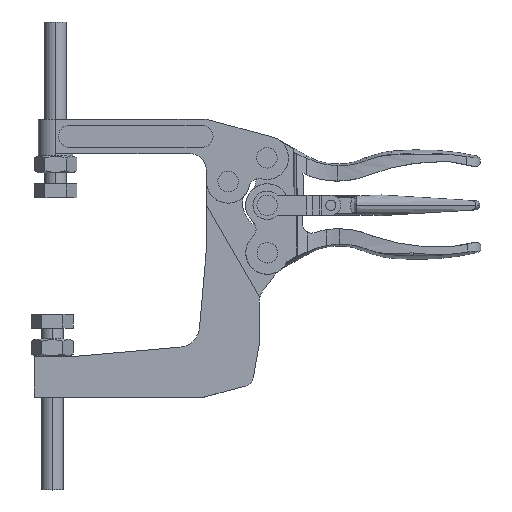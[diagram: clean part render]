
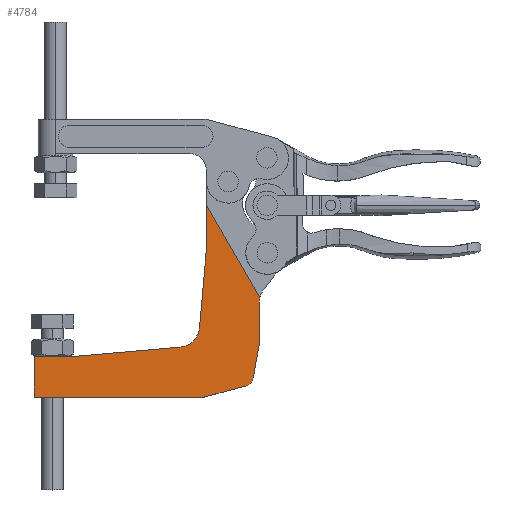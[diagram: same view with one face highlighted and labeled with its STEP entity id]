
A CAD part, top view. The second image highlights one B-rep face of the part: STEP entity #4784.
In plain terms, the highlighted planar face has unit normal (0, 0, 1).
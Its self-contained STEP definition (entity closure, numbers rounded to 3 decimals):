
#69 = ORIENTED_EDGE ( 'NONE', *, *, #2282, .T. ) ;
#152 = DIRECTION ( 'NONE',  ( 0.5, -0.866, 0. ) ) ;
#467 = DIRECTION ( 'NONE',  ( 1., 0., 0. ) ) ;
#497 = EDGE_CURVE ( 'NONE', #10672, #712, #8376, .T. ) ;
#516 = VECTOR ( 'NONE', #9555, 1000. ) ;
#581 = CARTESIAN_POINT ( 'NONE',  ( -40.173, -44.457, 0. ) ) ;
#665 = CARTESIAN_POINT ( 'NONE',  ( -107.848, -67.651, 0. ) ) ;
#702 = VERTEX_POINT ( 'NONE', #7460 ) ;
#712 = VERTEX_POINT ( 'NONE', #11239 ) ;
#771 = CARTESIAN_POINT ( 'NONE',  ( -9.771, -62.455, 0. ) ) ;
#847 = VERTEX_POINT ( 'NONE', #7063 ) ;
#1009 = VERTEX_POINT ( 'NONE', #1770 ) ;
#1131 = AXIS2_PLACEMENT_3D ( 'NONE', #12023, #10937, #12084 ) ;
#1409 = VERTEX_POINT ( 'NONE', #4187 ) ;
#1525 = ORIENTED_EDGE ( 'NONE', *, *, #9564, .T. ) ;
#1533 = DIRECTION ( 'NONE',  ( 1., 0., 0. ) ) ;
#1603 = AXIS2_PLACEMENT_3D ( 'NONE', #13221, #6814, #467 ) ;
#1698 = CARTESIAN_POINT ( 'NONE',  ( -11.065, -57.625, 0. ) ) ;
#1770 = CARTESIAN_POINT ( 'NONE',  ( -107.848, -48.651, 0. ) ) ;
#1803 = VERTEX_POINT ( 'NONE', #581 ) ;
#2141 = CARTESIAN_POINT ( 'NONE',  ( -3.348, -42.651, 0. ) ) ;
#2245 = EDGE_CURVE ( 'NONE', #3958, #1803, #4711, .T. ) ;
#2282 = EDGE_CURVE ( 'NONE', #13618, #4879, #5055, .T. ) ;
#2354 = CARTESIAN_POINT ( 'NONE',  ( -27.848, 1.609, 0. ) ) ;
#2370 = VECTOR ( 'NONE', #1533, 1000. ) ;
#2383 = ORIENTED_EDGE ( 'NONE', *, *, #13534, .T. ) ;
#2491 = CARTESIAN_POINT ( 'NONE',  ( -107.848, -48.651, 0. ) ) ;
#3083 = CARTESIAN_POINT ( 'NONE',  ( -3.348, -42.651, 0. ) ) ;
#3273 = ORIENTED_EDGE ( 'NONE', *, *, #3891, .T. ) ;
#3441 = CARTESIAN_POINT ( 'NONE',  ( -27.848, 1.609, 0. ) ) ;
#3634 = CARTESIAN_POINT ( 'NONE',  ( -88.108, -48.651, 0. ) ) ;
#3662 = CARTESIAN_POINT ( 'NONE',  ( -3.348, -42.651, 0. ) ) ;
#3693 = LINE ( 'NONE', #2141, #516 ) ;
#3806 = EDGE_LOOP ( 'NONE', ( #12873, #8698, #2383, #1525, #9063, #8441, #4392, #8582, #7151, #13535, #69, #6688, #3273 ) ) ;
#3891 = EDGE_CURVE ( 'NONE', #9716, #10672, #3693, .T. ) ;
#3958 = VERTEX_POINT ( 'NONE', #10651 ) ;
#4187 = CARTESIAN_POINT ( 'NONE',  ( -88.108, -48.651, 0. ) ) ;
#4238 = LINE ( 'NONE', #3634, #12052 ) ;
#4392 = ORIENTED_EDGE ( 'NONE', *, *, #6356, .T. ) ;
#4505 = LINE ( 'NONE', #2354, #9814 ) ;
#4592 = VECTOR ( 'NONE', #11396, 1000. ) ;
#4711 = CIRCLE ( 'NONE', #1603, 10. ) ;
#4784 = ADVANCED_FACE ( 'NONE', ( #5272 ), #4902, .T. ) ;
#4879 = VERTEX_POINT ( 'NONE', #8745 ) ;
#4902 = PLANE ( 'NONE',  #9432 ) ;
#5055 = CIRCLE ( 'NONE', #6566, 5. ) ;
#5259 = LINE ( 'NONE', #6522, #10550 ) ;
#5272 = FACE_OUTER_BOUND ( 'NONE', #3806, .T. ) ;
#5453 = CARTESIAN_POINT ( 'NONE',  ( -27.848, 1.609, 0. ) ) ;
#5554 = EDGE_CURVE ( 'NONE', #847, #712, #5259, .T. ) ;
#5816 = DIRECTION ( 'NONE',  ( 0., 0., 1. ) ) ;
#5969 = DIRECTION ( 'NONE',  ( 1., 0., 0. ) ) ;
#6221 = VERTEX_POINT ( 'NONE', #3441 ) ;
#6271 = DIRECTION ( 'NONE',  ( -0.996, -0.087, 0. ) ) ;
#6356 = EDGE_CURVE ( 'NONE', #1409, #1009, #4238, .T. ) ;
#6522 = CARTESIAN_POINT ( 'NONE',  ( -27.848, 21.349, 0. ) ) ;
#6566 = AXIS2_PLACEMENT_3D ( 'NONE', #12182, #5816, #13272 ) ;
#6688 = ORIENTED_EDGE ( 'NONE', *, *, #8184, .T. ) ;
#6748 = VECTOR ( 'NONE', #6271, 1000. ) ;
#6814 = DIRECTION ( 'NONE',  ( 0., 0., -1. ) ) ;
#7063 = CARTESIAN_POINT ( 'NONE',  ( -27.848, 21.349, 0. ) ) ;
#7087 = LINE ( 'NONE', #11549, #6748 ) ;
#7151 = ORIENTED_EDGE ( 'NONE', *, *, #8413, .T. ) ;
#7460 = CARTESIAN_POINT ( 'NONE',  ( -29.165, -67.651, 0. ) ) ;
#7586 = EDGE_CURVE ( 'NONE', #1009, #11188, #11512, .T. ) ;
#7661 = LINE ( 'NONE', #7891, #2370 ) ;
#7891 = CARTESIAN_POINT ( 'NONE',  ( -29.165, -67.651, 0. ) ) ;
#8184 = EDGE_CURVE ( 'NONE', #4879, #9716, #9328, .T. ) ;
#8376 = CIRCLE ( 'NONE', #1131, 10. ) ;
#8413 = EDGE_CURVE ( 'NONE', #11188, #702, #7661, .T. ) ;
#8441 = ORIENTED_EDGE ( 'NONE', *, *, #9376, .T. ) ;
#8582 = ORIENTED_EDGE ( 'NONE', *, *, #7586, .T. ) ;
#8630 = DIRECTION ( 'NONE',  ( -0.087, -0.996, 0. ) ) ;
#8698 = ORIENTED_EDGE ( 'NONE', *, *, #5554, .F. ) ;
#8745 = CARTESIAN_POINT ( 'NONE',  ( -6.141, -58.493, 0. ) ) ;
#9063 = ORIENTED_EDGE ( 'NONE', *, *, #2245, .T. ) ;
#9328 = LINE ( 'NONE', #3083, #12516 ) ;
#9344 = CARTESIAN_POINT ( 'NONE',  ( -3.348, -23.724, 0. ) ) ;
#9376 = EDGE_CURVE ( 'NONE', #1803, #1409, #7087, .T. ) ;
#9432 = AXIS2_PLACEMENT_3D ( 'NONE', #1698, #12339, #5969 ) ;
#9555 = DIRECTION ( 'NONE',  ( 0., 1., 0. ) ) ;
#9564 = EDGE_CURVE ( 'NONE', #6221, #3958, #13260, .T. ) ;
#9668 = VECTOR ( 'NONE', #9911, 1000. ) ;
#9716 = VERTEX_POINT ( 'NONE', #3662 ) ;
#9814 = VECTOR ( 'NONE', #12948, 1000. ) ;
#9911 = DIRECTION ( 'NONE',  ( 0., -1., 0. ) ) ;
#9918 = EDGE_CURVE ( 'NONE', #702, #13618, #13077, .T. ) ;
#10309 = CARTESIAN_POINT ( 'NONE',  ( -9.771, -62.455, 0. ) ) ;
#10401 = VECTOR ( 'NONE', #8630, 1000. ) ;
#10481 = DIRECTION ( 'NONE',  ( 0.174, 0.985, 0. ) ) ;
#10550 = VECTOR ( 'NONE', #152, 1000. ) ;
#10651 = CARTESIAN_POINT ( 'NONE',  ( -31.083, -35.367, 0. ) ) ;
#10672 = VERTEX_POINT ( 'NONE', #9344 ) ;
#10937 = DIRECTION ( 'NONE',  ( 0., 0., -1. ) ) ;
#11188 = VERTEX_POINT ( 'NONE', #665 ) ;
#11239 = CARTESIAN_POINT ( 'NONE',  ( -3.101, -21.514, 0. ) ) ;
#11396 = DIRECTION ( 'NONE',  ( 0.966, 0.259, 0. ) ) ;
#11512 = LINE ( 'NONE', #2491, #9668 ) ;
#11549 = CARTESIAN_POINT ( 'NONE',  ( -88.108, -48.651, 0. ) ) ;
#12023 = CARTESIAN_POINT ( 'NONE',  ( 6.652, -23.724, 0. ) ) ;
#12052 = VECTOR ( 'NONE', #12118, 1000. ) ;
#12084 = DIRECTION ( 'NONE',  ( 1., 0., 0. ) ) ;
#12118 = DIRECTION ( 'NONE',  ( -1., 0., 0. ) ) ;
#12182 = CARTESIAN_POINT ( 'NONE',  ( -11.065, -57.625, 0. ) ) ;
#12339 = DIRECTION ( 'NONE',  ( 0., 0., 1. ) ) ;
#12516 = VECTOR ( 'NONE', #10481, 1000. ) ;
#12873 = ORIENTED_EDGE ( 'NONE', *, *, #497, .T. ) ;
#12948 = DIRECTION ( 'NONE',  ( 0., -1., 0. ) ) ;
#13077 = LINE ( 'NONE', #10309, #4592 ) ;
#13221 = CARTESIAN_POINT ( 'NONE',  ( -41.045, -34.495, 0. ) ) ;
#13260 = LINE ( 'NONE', #5453, #10401 ) ;
#13272 = DIRECTION ( 'NONE',  ( 1., 0., 0. ) ) ;
#13534 = EDGE_CURVE ( 'NONE', #847, #6221, #4505, .T. ) ;
#13535 = ORIENTED_EDGE ( 'NONE', *, *, #9918, .T. ) ;
#13618 = VERTEX_POINT ( 'NONE', #771 ) ;
